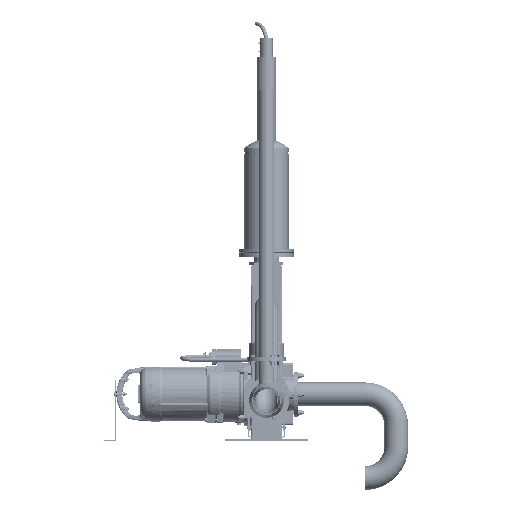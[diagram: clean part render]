
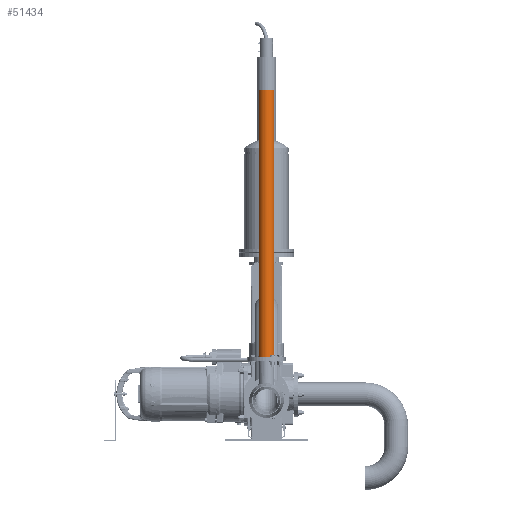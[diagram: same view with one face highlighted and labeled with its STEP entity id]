
A CAD part, left-side view. The second image highlights one B-rep face of the part: STEP entity #51434.
In plain terms, the highlighted cylindrical face has radius 38.1 mm (diameter 76.2 mm), a full revolution.
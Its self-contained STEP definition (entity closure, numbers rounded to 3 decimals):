
#8300=FACE_OUTER_BOUND('',#11689,.T.);
#11689=EDGE_LOOP('',(#37905,#37906,#37907,#37908,#37909));
#15047=LINE('',#81089,#17565);
#17565=VECTOR('',#64363,38.1);
#20272=CIRCLE('',#56383,38.1);
#20273=CIRCLE('',#56384,38.1);
#20277=CIRCLE('',#56390,38.1);
#23811=VERTEX_POINT('',#81074);
#23812=VERTEX_POINT('',#81075);
#23816=VERTEX_POINT('',#81087);
#29026=EDGE_CURVE('',#23811,#23812,#20272,.T.);
#29027=EDGE_CURVE('',#23812,#23811,#20273,.T.);
#29032=EDGE_CURVE('',#23816,#23816,#20277,.T.);
#29033=EDGE_CURVE('',#23816,#23812,#15047,.T.);
#37905=ORIENTED_EDGE('',*,*,#29032,.T.);
#37906=ORIENTED_EDGE('',*,*,#29033,.T.);
#37907=ORIENTED_EDGE('',*,*,#29027,.T.);
#37908=ORIENTED_EDGE('',*,*,#29026,.T.);
#37909=ORIENTED_EDGE('',*,*,#29033,.F.);
#50248=CYLINDRICAL_SURFACE('',#56389,38.1);
#51434=ADVANCED_FACE('',(#8300),#50248,.T.);
#56383=AXIS2_PLACEMENT_3D('',#81076,#64346,#64347);
#56384=AXIS2_PLACEMENT_3D('',#81077,#64348,#64349);
#56389=AXIS2_PLACEMENT_3D('',#81086,#64359,#64360);
#56390=AXIS2_PLACEMENT_3D('',#81088,#64361,#64362);
#64346=DIRECTION('center_axis',(0.,0.,1.));
#64347=DIRECTION('ref_axis',(1.,0.,0.));
#64348=DIRECTION('center_axis',(0.,0.,1.));
#64349=DIRECTION('ref_axis',(1.,0.,0.));
#64359=DIRECTION('center_axis',(0.,0.,1.));
#64360=DIRECTION('ref_axis',(-1.,0.,0.));
#64361=DIRECTION('center_axis',(0.,0.,-1.));
#64362=DIRECTION('ref_axis',(-1.,0.,0.));
#64363=DIRECTION('',(0.,0.,-1.));
#81074=CARTESIAN_POINT('',(-38.1,0.,-800.));
#81075=CARTESIAN_POINT('',(38.1,0.,-800.));
#81076=CARTESIAN_POINT('Origin',(0.,0.,-800.));
#81077=CARTESIAN_POINT('Origin',(0.,0.,-800.));
#81086=CARTESIAN_POINT('Origin',(0.,0.,0.));
#81087=CARTESIAN_POINT('',(38.1,0.,500.));
#81088=CARTESIAN_POINT('Origin',(0.,0.,500.));
#81089=CARTESIAN_POINT('',(38.1,0.,0.));
